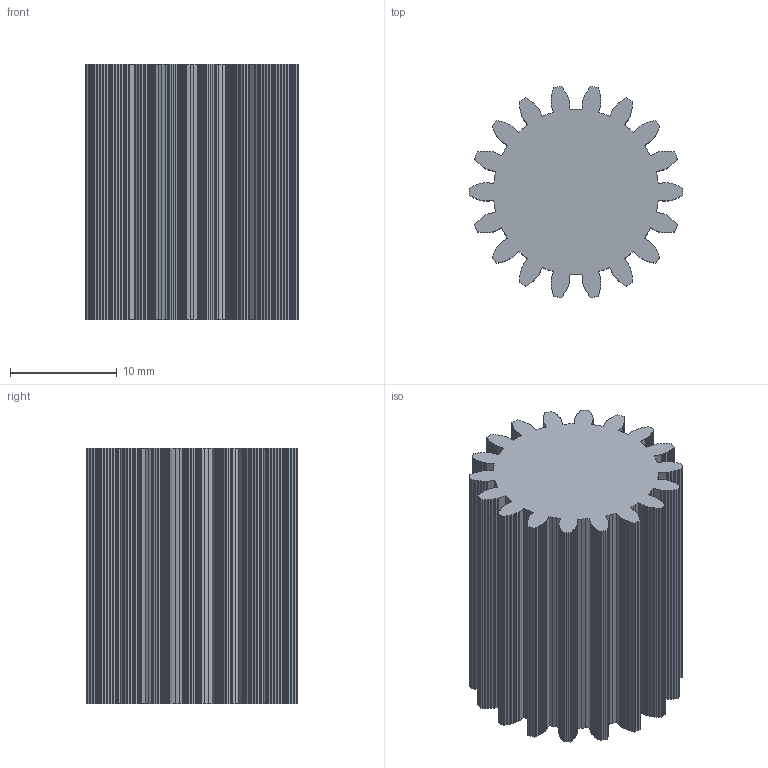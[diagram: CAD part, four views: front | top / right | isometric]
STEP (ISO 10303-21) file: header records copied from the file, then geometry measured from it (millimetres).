
FILE_DESCRIPTION(('FreeCAD Model'),'2;1');
FILE_NAME('Open CASCADE Shape Model','2026-11-05T18:54:40',('FreeCAD'),( 'FreeCAD'),'Open CASCADE STEP processor 7.8','FreeCAD','Unknown');
FILE_SCHEMA(('AUTOMOTIVE_DESIGN { 1 0 10303 214 1 1 1 1 }'));
Length unit declared in the file: millimetre
Products named in the file (1): Open CASCADE STEP translator 7.8 48
Bounding box: 20 x 19.8 x 24 mm (x, y, z)
Volume: 5935.6 mm3; surface area: 3339 mm2
Topology: 1 solids, 1 shells, 596 faces, 1782 edges, 1188 vertices
Faces by surface type: plane 596
Entity records: 19636 total; most frequent: CARTESIAN_POINT 3567, ORIENTED_EDGE 3564, DIRECTION 2976, EDGE_CURVE 1782, LINE 1782, VECTOR 1782, VERTEX_POINT 1188, AXIS2_PLACEMENT_3D 597
